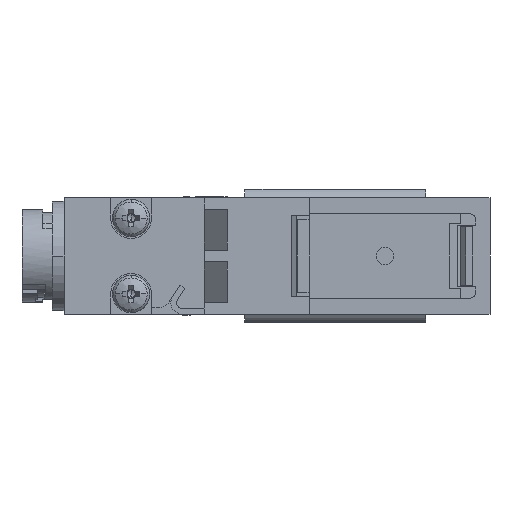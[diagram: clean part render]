
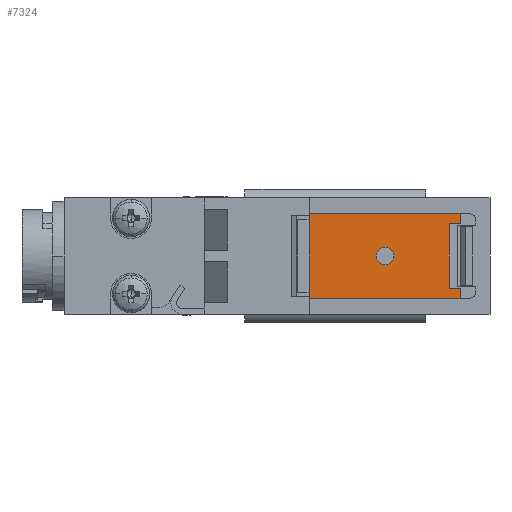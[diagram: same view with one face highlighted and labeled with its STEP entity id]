
A CAD part, left-side view. The second image highlights one B-rep face of the part: STEP entity #7324.
In plain terms, the highlighted planar face has unit normal (-1, 0, 0) as drawn and (0, 0, 1) by its records, which use the part's own axes.
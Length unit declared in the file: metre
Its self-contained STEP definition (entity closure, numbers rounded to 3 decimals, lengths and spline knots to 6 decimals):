
#103 = DIRECTION ( 'NONE',  ( 1., 0., 0. ) ) ;
#361 = AXIS2_PLACEMENT_3D ( 'NONE', #12063, #4338, #13333 ) ;
#450 = VECTOR ( 'NONE', #2790, 1. ) ;
#760 = PLANE ( 'NONE',  #6767 ) ;
#821 = DIRECTION ( 'NONE',  ( 0., 0., 1. ) ) ;
#1286 = VECTOR ( 'NONE', #5425, 1. ) ;
#1308 = CARTESIAN_POINT ( 'NONE',  ( -0.00275, 0.0041, 0.006 ) ) ;
#1503 = CARTESIAN_POINT ( 'NONE',  ( 0.00275, 0.0046, 0.006 ) ) ;
#1577 = LINE ( 'NONE', #13566, #8470 ) ;
#2096 = VERTEX_POINT ( 'NONE', #1503 ) ;
#2106 = DIRECTION ( 'NONE',  ( -1., 0., 0. ) ) ;
#2261 = EDGE_CURVE ( 'NONE', #15666, #3151, #12456, .T. ) ;
#2290 = ORIENTED_EDGE ( 'NONE', *, *, #2811, .F. ) ;
#2318 = ORIENTED_EDGE ( 'NONE', *, *, #10019, .F. ) ;
#2635 = DIRECTION ( 'NONE',  ( 0., 1., 0. ) ) ;
#2671 = ORIENTED_EDGE ( 'NONE', *, *, #6906, .T. ) ;
#2790 = DIRECTION ( 'NONE',  ( 0., 1., 0. ) ) ;
#2811 = EDGE_CURVE ( 'NONE', #10953, #15666, #10804, .T. ) ;
#3151 = VERTEX_POINT ( 'NONE', #5127 ) ;
#3262 = DIRECTION ( 'NONE',  ( 0., -1., 0. ) ) ;
#3299 = ORIENTED_EDGE ( 'NONE', *, *, #11533, .F. ) ;
#3344 = CARTESIAN_POINT ( 'NONE',  ( -0.003625, 0.0101, 0.006 ) ) ;
#3531 = VERTEX_POINT ( 'NONE', #7050 ) ;
#3968 = CARTESIAN_POINT ( 'NONE',  ( 0., 0.0046, 0.006 ) ) ;
#4017 = ORIENTED_EDGE ( 'NONE', *, *, #10885, .T. ) ;
#4255 = FACE_OUTER_BOUND ( 'NONE', #5286, .T. ) ;
#4338 = DIRECTION ( 'NONE',  ( 0., 0., 1. ) ) ;
#4641 = ORIENTED_EDGE ( 'NONE', *, *, #5038, .T. ) ;
#4929 = CARTESIAN_POINT ( 'NONE',  ( -0.003188, 0.0036, 0.006 ) ) ;
#4961 = VECTOR ( 'NONE', #9635, 1. ) ;
#5038 = EDGE_CURVE ( 'NONE', #10590, #14427, #15940, .T. ) ;
#5054 = CARTESIAN_POINT ( 'NONE',  ( 0.003625, 0.0036, 0.006 ) ) ;
#5127 = CARTESIAN_POINT ( 'NONE',  ( 0.003625, 0.0166, 0.006 ) ) ;
#5238 = DIRECTION ( 'NONE',  ( -1., 0., 0. ) ) ;
#5286 = EDGE_LOOP ( 'NONE', ( #4641, #2318, #4017, #10530, #8986, #11309, #2290, #2671 ) ) ;
#5326 = CARTESIAN_POINT ( 'NONE',  ( -0.003625, 0.0166, 0.006 ) ) ;
#5425 = DIRECTION ( 'NONE',  ( 1., 0., 0. ) ) ;
#5503 = CARTESIAN_POINT ( 'NONE',  ( 0., 0.0166, 0.006 ) ) ;
#6053 = VECTOR ( 'NONE', #6444, 1. ) ;
#6444 = DIRECTION ( 'NONE',  ( 1., 0., 0. ) ) ;
#6742 = CIRCLE ( 'NONE', #361, 0.00075 ) ;
#6767 = AXIS2_PLACEMENT_3D ( 'NONE', #14947, #9868, #2106 ) ;
#6898 = AXIS2_PLACEMENT_3D ( 'NONE', #8615, #821, #9919 ) ;
#6906 = EDGE_CURVE ( 'NONE', #10953, #10590, #16298, .T. ) ;
#7050 = CARTESIAN_POINT ( 'NONE',  ( -0.00075, 0.0101, 0.006 ) ) ;
#7112 = CARTESIAN_POINT ( 'NONE',  ( -0.003625, 0.0036, 0.006 ) ) ;
#7258 = EDGE_CURVE ( 'NONE', #3151, #7533, #1577, .T. ) ;
#7324 = ADVANCED_FACE ( 'NONE', ( #14118, #4255 ), #760, .F. ) ;
#7533 = VERTEX_POINT ( 'NONE', #5054 ) ;
#7823 = CARTESIAN_POINT ( 'NONE',  ( -0.00275, 0.0036, 0.006 ) ) ;
#8311 = CARTESIAN_POINT ( 'NONE',  ( 0.00275, 0.0041, 0.006 ) ) ;
#8385 = LINE ( 'NONE', #8311, #4961 ) ;
#8470 = VECTOR ( 'NONE', #3262, 1. ) ;
#8615 = CARTESIAN_POINT ( 'NONE',  ( 0., 0.0101, 0.006 ) ) ;
#8984 = CARTESIAN_POINT ( 'NONE',  ( -0.00275, 0.0046, 0.006 ) ) ;
#8986 = ORIENTED_EDGE ( 'NONE', *, *, #7258, .F. ) ;
#9128 = VECTOR ( 'NONE', #2635, 1. ) ;
#9635 = DIRECTION ( 'NONE',  ( 0., -1., 0. ) ) ;
#9868 = DIRECTION ( 'NONE',  ( 0., 0., -1. ) ) ;
#9919 = DIRECTION ( 'NONE',  ( 1., 0., 0. ) ) ;
#10019 = EDGE_CURVE ( 'NONE', #2096, #14427, #16227, .T. ) ;
#10383 = EDGE_CURVE ( 'NONE', #3531, #14002, #11840, .T. ) ;
#10530 = ORIENTED_EDGE ( 'NONE', *, *, #14550, .T. ) ;
#10590 = VERTEX_POINT ( 'NONE', #7823 ) ;
#10804 = LINE ( 'NONE', #3344, #450 ) ;
#10885 = EDGE_CURVE ( 'NONE', #2096, #12460, #8385, .T. ) ;
#10953 = VERTEX_POINT ( 'NONE', #7112 ) ;
#11118 = VECTOR ( 'NONE', #103, 1. ) ;
#11309 = ORIENTED_EDGE ( 'NONE', *, *, #2261, .F. ) ;
#11533 = EDGE_CURVE ( 'NONE', #14002, #3531, #6742, .T. ) ;
#11840 = CIRCLE ( 'NONE', #6898, 0.00075 ) ;
#12063 = CARTESIAN_POINT ( 'NONE',  ( 0., 0.0101, 0.006 ) ) ;
#12456 = LINE ( 'NONE', #5503, #1286 ) ;
#12460 = VERTEX_POINT ( 'NONE', #12660 ) ;
#12660 = CARTESIAN_POINT ( 'NONE',  ( 0.00275, 0.0036, 0.006 ) ) ;
#12864 = VECTOR ( 'NONE', #5238, 1. ) ;
#13037 = CARTESIAN_POINT ( 'NONE',  ( 0.003188, 0.0036, 0.006 ) ) ;
#13333 = DIRECTION ( 'NONE',  ( 1., 0., 0. ) ) ;
#13566 = CARTESIAN_POINT ( 'NONE',  ( 0.003625, 0.0101, 0.006 ) ) ;
#14002 = VERTEX_POINT ( 'NONE', #14328 ) ;
#14118 = FACE_BOUND ( 'NONE', #16709, .T. ) ;
#14328 = CARTESIAN_POINT ( 'NONE',  ( 0.00075, 0.0101, 0.006 ) ) ;
#14427 = VERTEX_POINT ( 'NONE', #8984 ) ;
#14535 = LINE ( 'NONE', #13037, #11118 ) ;
#14550 = EDGE_CURVE ( 'NONE', #12460, #7533, #14535, .T. ) ;
#14822 = ORIENTED_EDGE ( 'NONE', *, *, #10383, .F. ) ;
#14947 = CARTESIAN_POINT ( 'NONE',  ( 0.003625, 0.0036, 0.006 ) ) ;
#15666 = VERTEX_POINT ( 'NONE', #5326 ) ;
#15940 = LINE ( 'NONE', #1308, #9128 ) ;
#16227 = LINE ( 'NONE', #3968, #12864 ) ;
#16298 = LINE ( 'NONE', #4929, #6053 ) ;
#16709 = EDGE_LOOP ( 'NONE', ( #3299, #14822 ) ) ;
